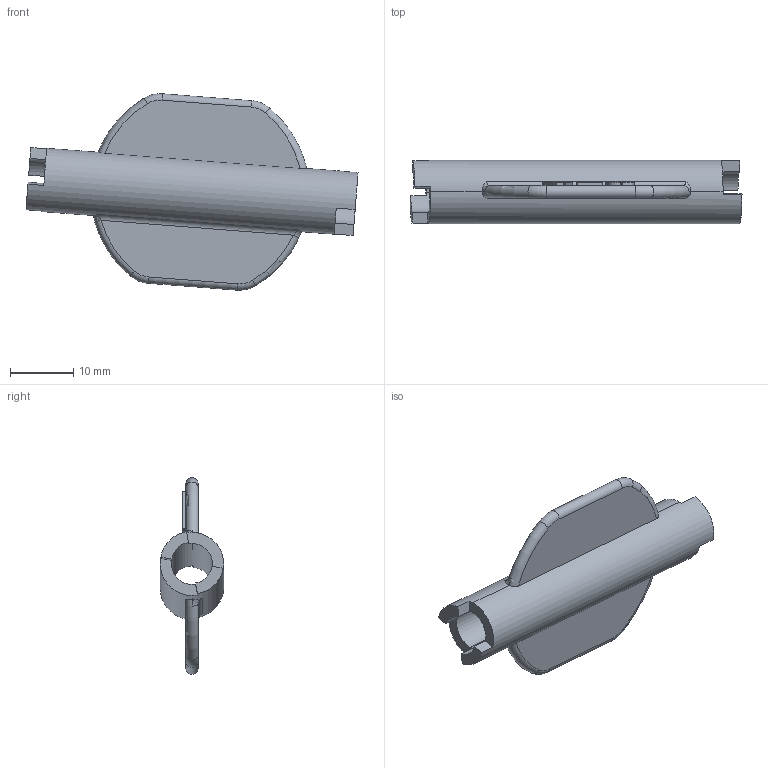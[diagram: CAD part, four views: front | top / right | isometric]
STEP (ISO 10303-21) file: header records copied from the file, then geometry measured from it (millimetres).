
FILE_DESCRIPTION((''),'2;1');
FILE_NAME('0000237133_PRT','2025-11-12T18:34:08',('Wyndorps'),(''),'CREO PARAMETRIC BY PTC INC, 2025010','CREO PARAMETRIC BY PTC INC, 2025010','');
FILE_SCHEMA(('CONFIG_CONTROL_DESIGN'));
Length unit declared in the file: millimetre
Products named in the file (1): 0000237133_PRT
Bounding box: 52.36 x 10 x 30.96 mm (x, y, z)
Volume: 3290.9 mm3; surface area: 3749.5 mm2
Topology: 1 solids, 1 shells, 93 faces, 253 edges, 166 vertices
Faces by surface type: plane 49, extrusion 20, cylinder 12, torus 8, bspline 4
Entity records: 3401 total; most frequent: CARTESIAN_POINT 1088, ORIENTED_EDGE 506, DIRECTION 407, EDGE_CURVE 253, VERTEX_POINT 166, VECTOR 157, LINE 137, AXIS2_PLACEMENT_3D 125
